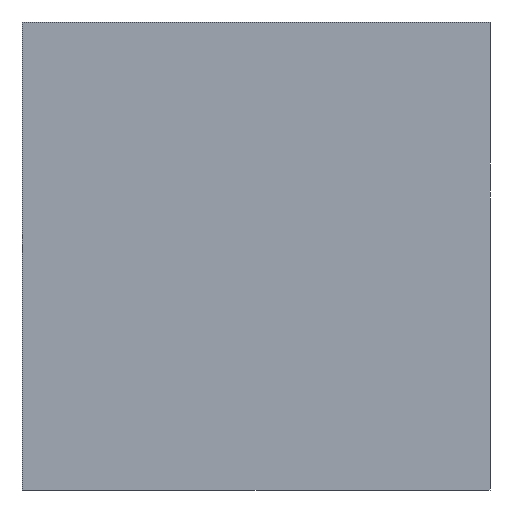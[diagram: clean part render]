
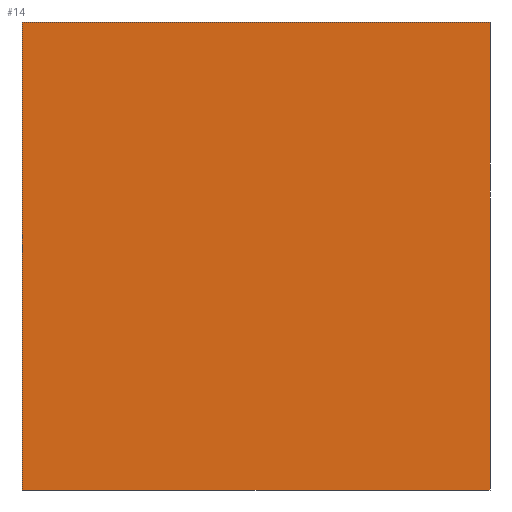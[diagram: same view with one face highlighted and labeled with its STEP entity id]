
A CAD part, front view. The second image highlights one B-rep face of the part: STEP entity #14.
In plain terms, the highlighted planar face has unit normal (0, -1, 0).
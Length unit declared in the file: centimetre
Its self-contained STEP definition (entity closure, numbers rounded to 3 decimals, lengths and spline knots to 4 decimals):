
#14 = ADVANCED_FACE ( 'NONE', ( #988 ), #306, .F. ) ;
#53 = DIRECTION ( 'NONE',  ( 0., 0., -1. ) ) ;
#67 = DIRECTION ( 'NONE',  ( 0., 0., 1. ) ) ;
#69 = VERTEX_POINT ( 'NONE', #616 ) ;
#92 = LINE ( 'NONE', #487, #798 ) ;
#124 = CARTESIAN_POINT ( 'NONE',  ( 0., 0., 1000. ) ) ;
#133 = VERTEX_POINT ( 'NONE', #994 ) ;
#186 = CARTESIAN_POINT ( 'NONE',  ( 0., 0., 0. ) ) ;
#206 = EDGE_CURVE ( 'NONE', #869, #830, #645, .T. ) ;
#229 = ORIENTED_EDGE ( 'NONE', *, *, #426, .T. ) ;
#233 = EDGE_CURVE ( 'NONE', #830, #133, #92, .T. ) ;
#270 = LINE ( 'NONE', #186, #653 ) ;
#275 = AXIS2_PLACEMENT_3D ( 'NONE', #124, #461, #67 ) ;
#291 = CARTESIAN_POINT ( 'NONE',  ( 0., 0., 1000. ) ) ;
#306 = PLANE ( 'NONE',  #275 ) ;
#311 = CARTESIAN_POINT ( 'NONE',  ( 1000., 0., 1000. ) ) ;
#426 = EDGE_CURVE ( 'NONE', #69, #133, #270, .T. ) ;
#450 = LINE ( 'NONE', #291, #998 ) ;
#461 = DIRECTION ( 'NONE',  ( 0., 1., 0. ) ) ;
#484 = CARTESIAN_POINT ( 'NONE',  ( 0., 0., 1000. ) ) ;
#485 = ORIENTED_EDGE ( 'NONE', *, *, #717, .T. ) ;
#487 = CARTESIAN_POINT ( 'NONE',  ( 1000., 0., 1000. ) ) ;
#491 = DIRECTION ( 'NONE',  ( 1., 0., 0. ) ) ;
#530 = DIRECTION ( 'NONE',  ( 1., 0., 0. ) ) ;
#536 = ORIENTED_EDGE ( 'NONE', *, *, #206, .F. ) ;
#588 = ORIENTED_EDGE ( 'NONE', *, *, #233, .F. ) ;
#616 = CARTESIAN_POINT ( 'NONE',  ( 0., 0., 0. ) ) ;
#645 = LINE ( 'NONE', #946, #733 ) ;
#653 = VECTOR ( 'NONE', #530, 100. ) ;
#717 = EDGE_CURVE ( 'NONE', #869, #69, #450, .T. ) ;
#733 = VECTOR ( 'NONE', #491, 100. ) ;
#798 = VECTOR ( 'NONE', #881, 100. ) ;
#821 = EDGE_LOOP ( 'NONE', ( #229, #588, #536, #485 ) ) ;
#830 = VERTEX_POINT ( 'NONE', #311 ) ;
#869 = VERTEX_POINT ( 'NONE', #484 ) ;
#881 = DIRECTION ( 'NONE',  ( 0., 0., -1. ) ) ;
#946 = CARTESIAN_POINT ( 'NONE',  ( 0., 0., 1000. ) ) ;
#988 = FACE_OUTER_BOUND ( 'NONE', #821, .T. ) ;
#994 = CARTESIAN_POINT ( 'NONE',  ( 1000., 0., 0. ) ) ;
#998 = VECTOR ( 'NONE', #53, 100. ) ;
